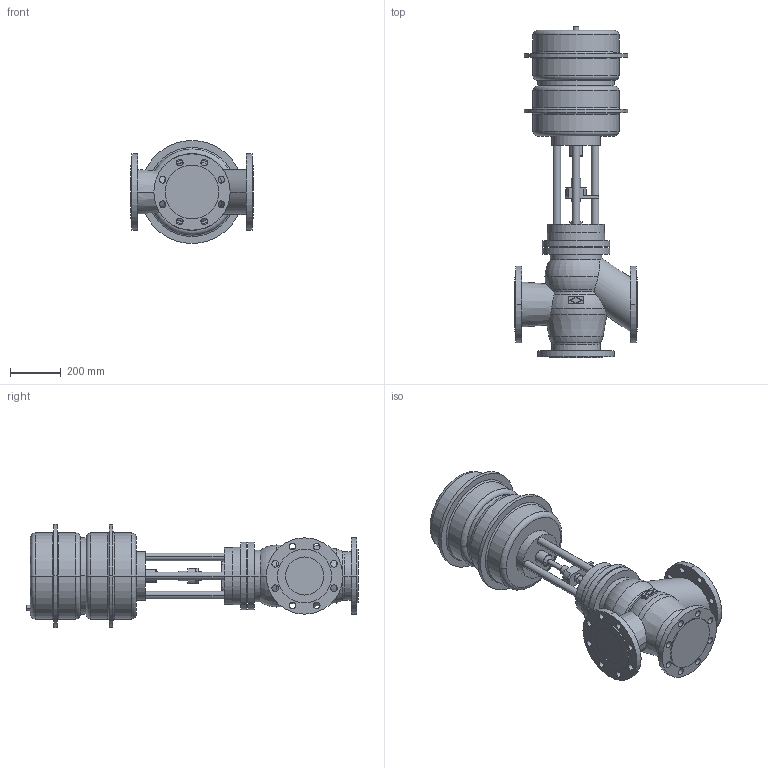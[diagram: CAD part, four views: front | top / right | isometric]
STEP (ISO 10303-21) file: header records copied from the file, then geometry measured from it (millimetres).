
FILE_DESCRIPTION(('OneSpaceDesigner STEP Export'),'2;1');
FILE_NAME('c000002372.stp','2006-12-14T11:55:16',(''),(''),'OneSpace Designer STEP processor for AP214 (Solid Model)','OneSpace Designer 14.00B 27-May-2006 (C) CoCreate Software GmbH','');
FILE_SCHEMA(('AUTOMOTIVE_DESIGN { 1 0 10303 214 1 1 1 1 }'));
Length unit declared in the file: millimetre
Products named in the file (2): 1; 2
Bounding box: 480 x 1304.5 x 405 mm (x, y, z)
Volume: 71204757.7 mm3; surface area: 1980631.1 mm2
Topology: 2 solids, 2 shells, 241 faces, 585 edges, 383 vertices
Faces by surface type: cylinder 126, plane 75, torus 34, cone 6
Entity records: 6420 total; most frequent: CARTESIAN_POINT 1261, ORIENTED_EDGE 1170, DIRECTION 918, EDGE_CURVE 585, VERTEX_POINT 383, AXIS2_PLACEMENT_3D 348, EDGE_LOOP 324, FACE_OUTER_BOUND 241
